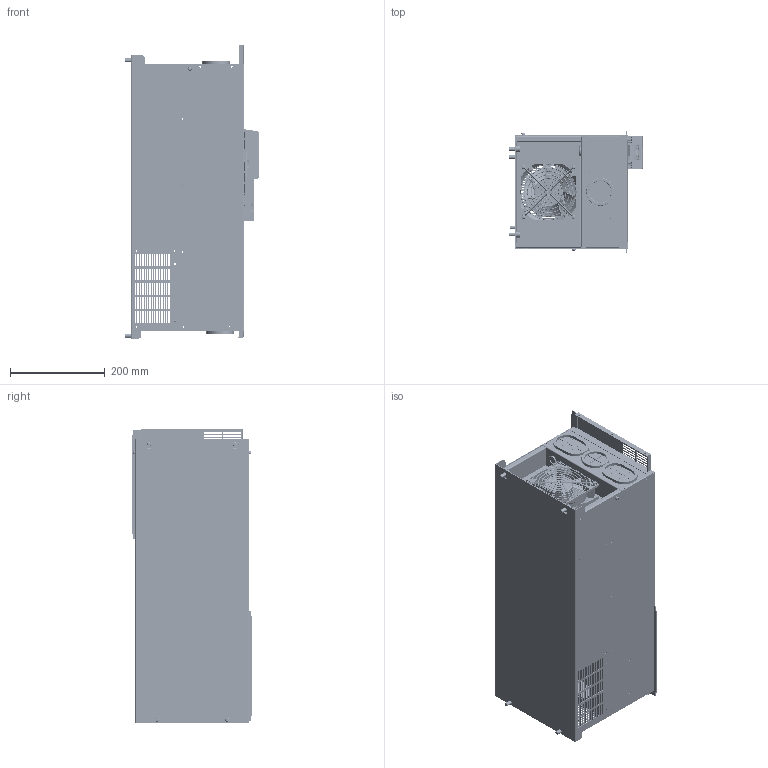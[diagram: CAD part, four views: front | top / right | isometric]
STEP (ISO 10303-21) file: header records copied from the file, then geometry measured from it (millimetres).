
FILE_DESCRIPTION (( 'STEP AP214' ), '1' );
FILE_NAME ('H120-37-45kw.STEP', '2024-12-10T01:05:46', ( '微软用户' ), ( '微软中国' ), 'SwSTEP 2.0', 'SolidWorks 2018', '' );
FILE_SCHEMA (( 'AUTOMOTIVE_DESIGN' ));
Length unit declared in the file: millimetre
Products named in the file (79):   m4x17______________-HE.STEP; ____-24V-2022022820220228-HE.STEP; m5________-HE.STEP; 50x75________-1.STEP; ____________-201903192019032820220228-HE.STEP; m8________-HE.STEP; 37kW__________20220228-HE.STEP; ____________________________-2022022820220228-HE.STEP; hc-sna____-20200609-0609.STEP; m4-18______________-20220228-HE.STEP; ________________________-202202916.STEP; ________-37-45kw-2022022820220228-HE.STEP; JNA360____-0609-HE.STEP; ____LCD______20220228-HE.STEP; m5________-20220228-HE.STEP; H373453-LP-11______-20220228.STEP; H373453-LP-13.STEP; pan head cross recess screw_iso_ISO 7045 - M2 x 8 - Z - 8N.STEP; ______-20220228-HE.STEP;  m4x10______________.STEP; __________-HE.STEP; ____16________-HE.STEP; __________4-20190309-201903192019032820220228-HE.STEP; H373453-LP-09-HE.STEP; ______-HE.STEP; m6x12____________-HE.STEP; M3X3mm________-____-20190313-201903192019032820220228-HE.STEP; H120-37-45kw; H373453-LP-08-HE.STEP; H373453-ZXQ2-20220228-1-HE.STEP; ________-20210622-HE.STEP; __________20220228-HE.STEP; M6________-HE.STEP; ____05-2022022820220228-HE.STEP; H373453-LP-10-HE.STEP; ____-20190311-201903192019032820220228-HE.STEP; H373453-GZ______20220228-HE.STEP; ______20220228-HE-1.STEP; hcdz-80w20rj-tc-____-1016.STEP; ________2 - 37-45kw-1-HE.STEP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
Assembly tree (160 placements, depth 4):
  H120-37-45kw
    ________-37-45kw-2022022820220228-HE.STEP
      ______-2022022820220228-HE.STEP
        ______-20220228-HE.STEP
        m5________-20220228-HE.STEP  x6
        m4-18______________-20220228-HE.STEP  x4
        m8________-HE.STEP
          m4x17______________-HE.STEP  x3
        m4x5______________-HE.STEP
      ______20220228-HE.STEP
        ____01-45kw-2022022820220228-HE.STEP
        ________M3________20220228-HE_M4________.STEP  x8
      ____________________20220228-HE.STEP  x2
        ______________20220228-HE.STEP
        M4________20220228-HE_M4________.STEP
      ______20220228-HE-1.STEP
        __________-37-45kw20220228-HE.STEP
      ____05-2022022820220228-HE.STEP
      H373453-ZXQ2-20220228-1-HE.STEP
      ______-HE.STEP
      __________-HE.STEP
    ____ __________20220228-HE.STEP
      ____________________________-2022022820220228-HE.STEP
      m5________-HE.STEP  x6
    ______________-20220228-1-HE.STEP
      ________-(________________-20200428-1 - ____-1-HE.STEP
      m8________-HE.STEP
      m5________.STEP  x6
    ____________-____-201803182019032820220228-HE.STEP
      ____________-201903192019032820220228-HE.STEP  x2
        ____1-201903192019032820220228-HE.STEP
        ____1-201903192019032820220228-HE_____.STEP
        ______-____-20190313-201903192019032820220228-HE.STEP
        ____-20190309-201903192019032820220228-HE.STEP
        ____-20190311-201903192019032820220228-HE.STEP
        __________20220228-HE.STEP
        M3X3mm________-____-20190313-201903192019032820220228-HE.STEP
        __________4-20190309-201903192019032820220228-HE.STEP
        pan head cross recess screw_iso_ISO 7045 - M2 x 8 - Z - 8N.STEP
        ____LCD______20220228-HE.STEP
      ANNIUZUOKE_26-201803182019032820220228-HE.STEP
      JIANPANZUOGAI_4-201803182019032820220228-HE.STEP  x2
      ____201950620220228-HE.STEP
      ______20220228-HE-0.STEP  x2
    H373453-GZ______20220228-HE.STEP
      ____3-2020042820220228-HE.STEP
      ____1-2019121620220228-HE.STEP
      ____20220228-HE.STEP  x2
      __________-37-45kw20220228-HE.STEP  x2
      ____________-37-45KW20220228-HE.STEP  x2
      ________2 - 37-45kw-1-HE.STEP
    H373453-LP-08-HE.STEP
      M6________-HE.STEP
    H373453-LP-09-HE.STEP
      M6________-HE.STEP
    H373453-LP-11______-20220228.STEP  x2
       m4x10______________.STEP
    37kW__________20220228-HE.STEP
      ________________________-202202916.STEP
      M4________20220228-HE_M4________.STEP  x7
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Bounding box: 282.75 x 254 x 621.24 mm (x, y, z)
Volume: 5024506.3 mm3; surface area: 4795816.9 mm2
Topology: 173 solids, 175 shells, 14084 faces, 37769 edges, 24652 vertices
Faces by surface type: plane 9674, cylinder 2902, bspline 786, cone 448, torus 221, sphere 53
Entity records: 295644 total; most frequent: CARTESIAN_POINT 88293, ORIENTED_EDGE 44052, DIRECTION 38611, EDGE_CURVE 22029, LINE 16191, VECTOR 16191, VERTEX_POINT 14385, AXIS2_PLACEMENT_3D 11210
